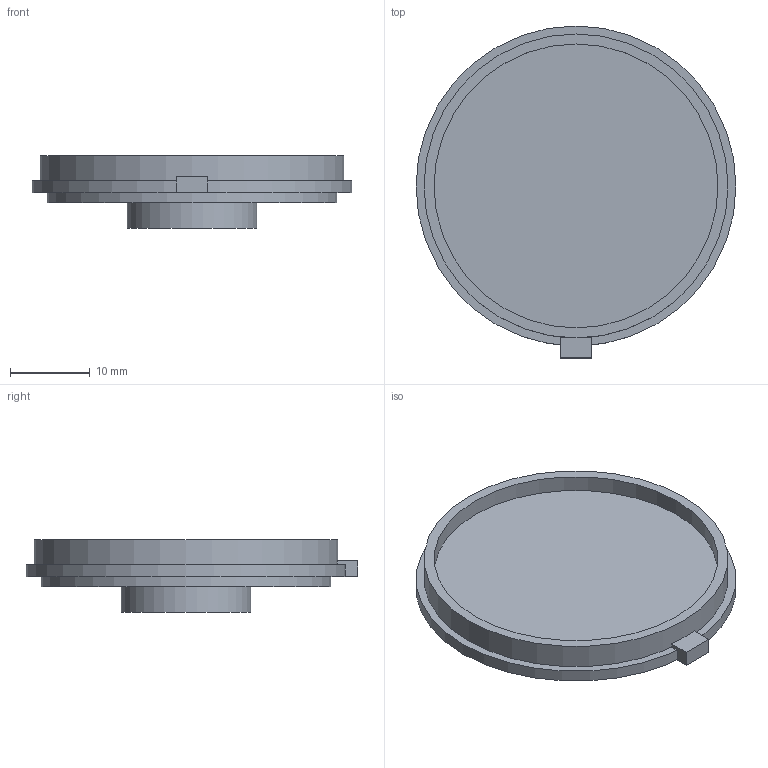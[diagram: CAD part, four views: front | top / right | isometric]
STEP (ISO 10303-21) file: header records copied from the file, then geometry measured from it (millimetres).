
FILE_DESCRIPTION(('Open CASCADE Model'),'2;1');
FILE_NAME('Soberton_SP-4005-1_speaker_D40','2026-09-04T00:01:42',( 'Author'),('Open CASCADE'),'Open CASCADE STEP processor 7.9', 'build123d','Unknown');
FILE_SCHEMA(('AUTOMOTIVE_DESIGN { 1 0 10303 214 1 1 1 1 }'));
Length unit declared in the file: millimetre
Products named in the file (3): Soberton_SP-4005-1_speaker_D40; speaker; lead_exit_keepout_ASSUMED
Assembly tree (2 placements, depth 2):
  Soberton_SP-4005-1_speaker_D40
    speaker
    lead_exit_keepout_ASSUMED
Bounding box: 40 x 41.5 x 9.05 mm (x, y, z)
Volume: 5286.1 mm3; surface area: 3655 mm2
Topology: 2 solids, 2 shells, 19 faces, 33 edges, 22 vertices
Faces by surface type: plane 12, cylinder 7
Full cylindrical faces by diameter (mm): 16.2 x1, 35.5 x1, 36.25 x1, 38 x1, 40 x1
Entity records: 505 total; most frequent: DIRECTION 91, CARTESIAN_POINT 77, ORIENTED_EDGE 66, AXIS2_PLACEMENT_3D 36, EDGE_CURVE 33, FACE_BOUND 23, EDGE_LOOP 23, VERTEX_POINT 22
